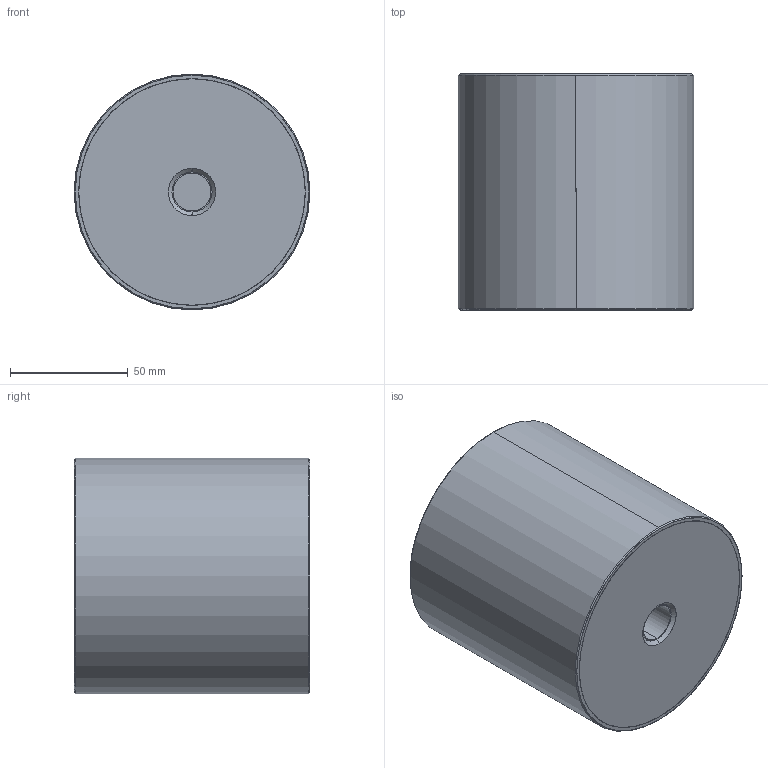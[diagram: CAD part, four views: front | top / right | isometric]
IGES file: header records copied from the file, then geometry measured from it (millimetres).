
Start section: SolidWorks IGES file using analytic representation for surfaces
Global section: file name: E:\WIXROYD 20180701\61080_v2\61080_v2_20180409_IGES\61080.W0904.igs; native system: SolidWorks 2017; preprocessor: SolidWorks 2017; author: liam_; date: 180716.214747; units: millimetre
Bounding box: 100 x 100 x 100 mm (x, y, z)
Surface area: 78323.7 mm2 (no closed solid volume)
Topology: 0 solids, 0 shells, 32 faces, 984 edges, 984 vertices
Faces by surface type: revolution 22, bspline 10
